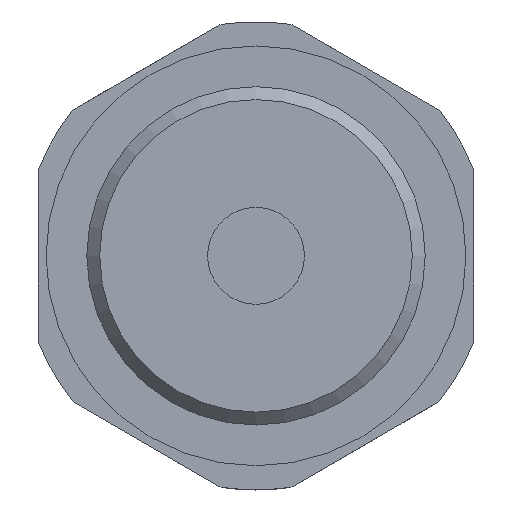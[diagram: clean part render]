
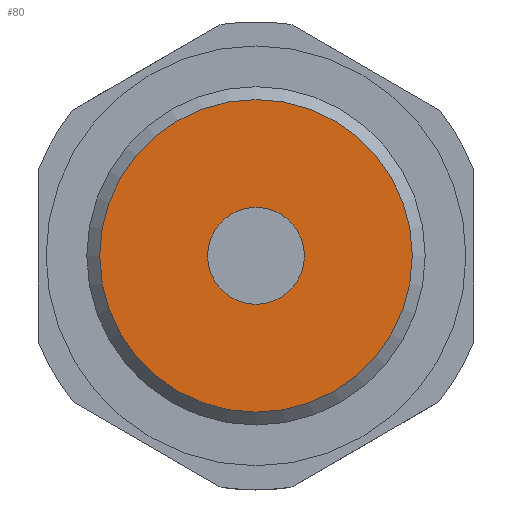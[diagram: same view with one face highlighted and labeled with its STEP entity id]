
A CAD part, front view. The second image highlights one B-rep face of the part: STEP entity #80.
In plain terms, the highlighted planar face has unit normal (0, -1, 0).
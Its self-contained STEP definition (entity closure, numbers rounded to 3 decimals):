
#80 = ADVANCED_FACE( '', ( #120, #121 ), #122, .F. );
#120 = FACE_BOUND( '', #205, .T. );
#121 = FACE_OUTER_BOUND( '', #206, .T. );
#122 = PLANE( '', #207 );
#205 = EDGE_LOOP( '', ( #309 ) );
#206 = EDGE_LOOP( '', ( #310 ) );
#207 = AXIS2_PLACEMENT_3D( '', #311, #312, #313 );
#309 = ORIENTED_EDGE( '', *, *, #500, .F. );
#310 = ORIENTED_EDGE( '', *, *, #502, .T. );
#311 = CARTESIAN_POINT( '', ( 9.678, -8.5, 0. ) );
#312 = DIRECTION( '', ( 0., 1., 0. ) );
#313 = DIRECTION( '', ( 0., 0., 1. ) );
#500 = EDGE_CURVE( '', #567, #567, #568, .T. );
#502 = EDGE_CURVE( '', #571, #571, #572, .T. );
#567 = VERTEX_POINT( '', #687 );
#568 = CIRCLE( '', #688, 3. );
#571 = VERTEX_POINT( '', #691 );
#572 = CIRCLE( '', #692, 9.678 );
#687 = CARTESIAN_POINT( '', ( 0., -8.5, -3. ) );
#688 = AXIS2_PLACEMENT_3D( '', #792, #793, #794 );
#691 = CARTESIAN_POINT( '', ( 0., -8.5, -9.678 ) );
#692 = AXIS2_PLACEMENT_3D( '', #798, #799, #800 );
#792 = CARTESIAN_POINT( '', ( 0., -8.5, 0. ) );
#793 = DIRECTION( '', ( 0., -1., 0. ) );
#794 = DIRECTION( '', ( 0., 0., -1. ) );
#798 = CARTESIAN_POINT( '', ( 0., -8.5, 0. ) );
#799 = DIRECTION( '', ( 0., -1., 0. ) );
#800 = DIRECTION( '', ( 0., 0., -1. ) );
